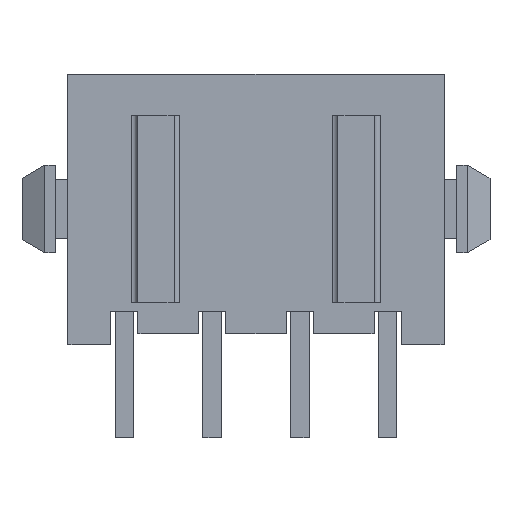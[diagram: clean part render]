
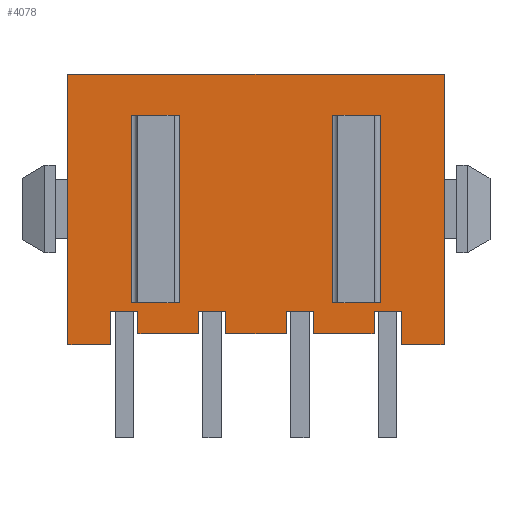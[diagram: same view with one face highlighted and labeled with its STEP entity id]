
A CAD part, front view. The second image highlights one B-rep face of the part: STEP entity #4078.
In plain terms, the highlighted planar face has unit normal (0, -1, 0).
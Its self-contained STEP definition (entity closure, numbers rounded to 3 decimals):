
#10=DIRECTION('',(0.,0.,-1.));
#11=VECTOR('',#10,9.24);
#12=CARTESIAN_POINT('',(-6.43,-3.43,0.));
#13=LINE('',#12,#11);
#841=DIRECTION('',(0.,0.,-1.));
#842=VECTOR('',#841,1.13);
#843=CARTESIAN_POINT('',(4.965,-3.43,-8.11));
#844=LINE('',#843,#842);
#925=DIRECTION('',(0.,0.,-1.));
#926=VECTOR('',#925,9.24);
#927=CARTESIAN_POINT('',(6.43,-3.43,0.));
#928=LINE('',#927,#926);
#965=DIRECTION('',(0.,0.,1.));
#966=VECTOR('',#965,1.13);
#967=CARTESIAN_POINT('',(-4.965,-3.43,-9.24));
#968=LINE('',#967,#966);
#981=DIRECTION('',(1.,0.,0.));
#982=VECTOR('',#981,0.93);
#983=CARTESIAN_POINT('',(-4.965,-3.43,-8.11));
#984=LINE('',#983,#982);
#985=DIRECTION('',(1.,0.,0.));
#986=VECTOR('',#985,12.86);
#987=CARTESIAN_POINT('',(-6.43,-3.43,0.));
#988=LINE('',#987,#986);
#989=DIRECTION('',(1.,0.,0.));
#990=VECTOR('',#989,0.93);
#991=CARTESIAN_POINT('',(4.035,-3.43,-8.11));
#992=LINE('',#991,#990);
#993=DIRECTION('',(0.,0.,-1.));
#994=VECTOR('',#993,0.76);
#995=CARTESIAN_POINT('',(4.035,-3.43,-8.11));
#996=LINE('',#995,#994);
#997=DIRECTION('',(1.,0.,0.));
#998=VECTOR('',#997,2.07);
#999=CARTESIAN_POINT('',(1.965,-3.43,-8.87));
#1000=LINE('',#999,#998);
#1001=DIRECTION('',(0.,0.,-1.));
#1002=VECTOR('',#1001,0.76);
#1003=CARTESIAN_POINT('',(1.965,-3.43,-8.11));
#1004=LINE('',#1003,#1002);
#1005=DIRECTION('',(1.,0.,0.));
#1006=VECTOR('',#1005,0.93);
#1007=CARTESIAN_POINT('',(1.035,-3.43,-8.11));
#1008=LINE('',#1007,#1006);
#1009=DIRECTION('',(0.,0.,-1.));
#1010=VECTOR('',#1009,0.76);
#1011=CARTESIAN_POINT('',(1.035,-3.43,-8.11));
#1012=LINE('',#1011,#1010);
#1013=DIRECTION('',(1.,0.,0.));
#1014=VECTOR('',#1013,2.07);
#1015=CARTESIAN_POINT('',(-1.035,-3.43,-8.87));
#1016=LINE('',#1015,#1014);
#1017=DIRECTION('',(0.,0.,-1.));
#1018=VECTOR('',#1017,0.76);
#1019=CARTESIAN_POINT('',(-1.035,-3.43,-8.11));
#1020=LINE('',#1019,#1018);
#1021=DIRECTION('',(1.,0.,0.));
#1022=VECTOR('',#1021,0.93);
#1023=CARTESIAN_POINT('',(-1.965,-3.43,-8.11));
#1024=LINE('',#1023,#1022);
#1025=DIRECTION('',(0.,0.,-1.));
#1026=VECTOR('',#1025,0.76);
#1027=CARTESIAN_POINT('',(-1.965,-3.43,-8.11));
#1028=LINE('',#1027,#1026);
#1029=DIRECTION('',(1.,0.,0.));
#1030=VECTOR('',#1029,2.07);
#1031=CARTESIAN_POINT('',(-4.035,-3.43,-8.87));
#1032=LINE('',#1031,#1030);
#1033=DIRECTION('',(0.,0.,-1.));
#1034=VECTOR('',#1033,0.76);
#1035=CARTESIAN_POINT('',(-4.035,-3.43,-8.11));
#1036=LINE('',#1035,#1034);
#1037=DIRECTION('',(0.,0.,-1.));
#1038=VECTOR('',#1037,6.4);
#1039=CARTESIAN_POINT('',(2.6,-3.43,-1.4));
#1040=LINE('',#1039,#1038);
#1041=DIRECTION('',(0.,0.,1.));
#1042=VECTOR('',#1041,6.4);
#1043=CARTESIAN_POINT('',(4.25,-3.43,-7.8));
#1044=LINE('',#1043,#1042);
#1045=DIRECTION('',(0.,0.,1.));
#1046=VECTOR('',#1045,6.4);
#1047=CARTESIAN_POINT('',(-2.6,-3.43,-7.8));
#1048=LINE('',#1047,#1046);
#1049=DIRECTION('',(0.,0.,-1.));
#1050=VECTOR('',#1049,6.4);
#1051=CARTESIAN_POINT('',(-4.25,-3.43,-1.4));
#1052=LINE('',#1051,#1050);
#1057=DIRECTION('',(1.,0.,0.));
#1058=VECTOR('',#1057,1.465);
#1059=CARTESIAN_POINT('',(-6.43,-3.43,-9.24));
#1060=LINE('',#1059,#1058);
#1065=DIRECTION('',(1.,0.,0.));
#1066=VECTOR('',#1065,1.465);
#1067=CARTESIAN_POINT('',(4.965,-3.43,-9.24));
#1068=LINE('',#1067,#1066);
#1127=DIRECTION('',(1.,0.,0.));
#1128=VECTOR('',#1127,1.65);
#1129=CARTESIAN_POINT('',(2.6,-3.43,-1.4));
#1130=LINE('',#1129,#1128);
#1143=DIRECTION('',(1.,0.,0.));
#1144=VECTOR('',#1143,1.65);
#1145=CARTESIAN_POINT('',(-4.25,-3.43,-1.4));
#1146=LINE('',#1145,#1144);
#1173=DIRECTION('',(-1.,0.,0.));
#1174=VECTOR('',#1173,1.65);
#1175=CARTESIAN_POINT('',(4.25,-3.43,-7.8));
#1176=LINE('',#1175,#1174);
#1189=DIRECTION('',(-1.,0.,0.));
#1190=VECTOR('',#1189,1.65);
#1191=CARTESIAN_POINT('',(-2.6,-3.43,-7.8));
#1192=LINE('',#1191,#1190);
#2254=CARTESIAN_POINT('',(-6.43,-3.43,0.));
#2255=VERTEX_POINT('',#2254);
#2256=CARTESIAN_POINT('',(-6.43,-3.43,-9.24));
#2257=VERTEX_POINT('',#2256);
#2270=CARTESIAN_POINT('',(6.43,-3.43,0.));
#2271=VERTEX_POINT('',#2270);
#2272=CARTESIAN_POINT('',(6.43,-3.43,-9.24));
#2273=VERTEX_POINT('',#2272);
#2282=CARTESIAN_POINT('',(-4.965,-3.43,-9.24));
#2284=VERTEX_POINT('',#2282);
#2286=CARTESIAN_POINT('',(4.965,-3.43,-9.24));
#2288=VERTEX_POINT('',#2286);
#2545=CARTESIAN_POINT('',(2.6,-3.43,-1.4));
#2546=CARTESIAN_POINT('',(2.6,-3.43,-7.8));
#2547=VERTEX_POINT('',#2545);
#2548=VERTEX_POINT('',#2546);
#2553=CARTESIAN_POINT('',(-2.6,-3.43,-7.8));
#2554=CARTESIAN_POINT('',(-2.6,-3.43,-1.4));
#2555=VERTEX_POINT('',#2553);
#2556=VERTEX_POINT('',#2554);
#2561=CARTESIAN_POINT('',(-4.25,-3.43,-1.4));
#2562=CARTESIAN_POINT('',(-4.25,-3.43,-7.8));
#2563=VERTEX_POINT('',#2561);
#2564=VERTEX_POINT('',#2562);
#2569=CARTESIAN_POINT('',(4.25,-3.43,-7.8));
#2570=CARTESIAN_POINT('',(4.25,-3.43,-1.4));
#2571=VERTEX_POINT('',#2569);
#2572=VERTEX_POINT('',#2570);
#2591=CARTESIAN_POINT('',(4.035,-3.43,-8.11));
#2592=CARTESIAN_POINT('',(4.965,-3.43,-8.11));
#2593=VERTEX_POINT('',#2591);
#2594=VERTEX_POINT('',#2592);
#2595=CARTESIAN_POINT('',(4.035,-3.43,-8.87));
#2596=VERTEX_POINT('',#2595);
#2617=CARTESIAN_POINT('',(1.035,-3.43,-8.11));
#2618=CARTESIAN_POINT('',(1.965,-3.43,-8.11));
#2619=VERTEX_POINT('',#2617);
#2620=VERTEX_POINT('',#2618);
#2621=CARTESIAN_POINT('',(1.035,-3.43,-8.87));
#2622=VERTEX_POINT('',#2621);
#2623=CARTESIAN_POINT('',(1.965,-3.43,-8.87));
#2624=VERTEX_POINT('',#2623);
#2689=CARTESIAN_POINT('',(-1.965,-3.43,-8.11));
#2690=CARTESIAN_POINT('',(-1.035,-3.43,-8.11));
#2691=VERTEX_POINT('',#2689);
#2692=VERTEX_POINT('',#2690);
#2693=CARTESIAN_POINT('',(-1.965,-3.43,-8.87));
#2694=VERTEX_POINT('',#2693);
#2695=CARTESIAN_POINT('',(-1.035,-3.43,-8.87));
#2696=VERTEX_POINT('',#2695);
#2747=CARTESIAN_POINT('',(-4.965,-3.43,-8.11));
#2748=CARTESIAN_POINT('',(-4.035,-3.43,-8.11));
#2749=VERTEX_POINT('',#2747);
#2750=VERTEX_POINT('',#2748);
#2751=CARTESIAN_POINT('',(-4.035,-3.43,-8.87));
#2752=VERTEX_POINT('',#2751);
#4020=CARTESIAN_POINT('',(-6.43,-3.43,0.));
#4021=DIRECTION('',(0.,-1.,0.));
#4022=DIRECTION('',(0.,0.,-1.));
#4023=AXIS2_PLACEMENT_3D('',#4020,#4021,#4022);
#4024=PLANE('',#4023);
#4025=ORIENTED_EDGE('',*,*,#3625,.F.);
#4026=ORIENTED_EDGE('',*,*,#3999,.F.);
#4028=ORIENTED_EDGE('',*,*,#4027,.F.);
#4029=ORIENTED_EDGE('',*,*,#2986,.F.);
#4030=ORIENTED_EDGE('',*,*,#3169,.T.);
#4031=ORIENTED_EDGE('',*,*,#3953,.T.);
#4033=ORIENTED_EDGE('',*,*,#4032,.F.);
#4034=ORIENTED_EDGE('',*,*,#3860,.F.);
#4035=ORIENTED_EDGE('',*,*,#3649,.F.);
#4037=ORIENTED_EDGE('',*,*,#4036,.T.);
#4039=ORIENTED_EDGE('',*,*,#4038,.F.);
#4041=ORIENTED_EDGE('',*,*,#4040,.F.);
#4042=ORIENTED_EDGE('',*,*,#3641,.F.);
#4044=ORIENTED_EDGE('',*,*,#4043,.T.);
#4046=ORIENTED_EDGE('',*,*,#4045,.F.);
#4048=ORIENTED_EDGE('',*,*,#4047,.F.);
#4049=ORIENTED_EDGE('',*,*,#3633,.F.);
#4051=ORIENTED_EDGE('',*,*,#4050,.T.);
#4053=ORIENTED_EDGE('',*,*,#4052,.F.);
#4055=ORIENTED_EDGE('',*,*,#4054,.F.);
#4056=EDGE_LOOP('',(#4025,#4026,#4028,#4029,#4030,#4031,#4033,#4034,#4035,#4037,
#4039,#4041,#4042,#4044,#4046,#4048,#4049,#4051,#4053,#4055));
#4057=FACE_OUTER_BOUND('',#4056,.F.);
#4059=ORIENTED_EDGE('',*,*,#4058,.T.);
#4061=ORIENTED_EDGE('',*,*,#4060,.F.);
#4063=ORIENTED_EDGE('',*,*,#4062,.T.);
#4065=ORIENTED_EDGE('',*,*,#4064,.F.);
#4066=EDGE_LOOP('',(#4059,#4061,#4063,#4065));
#4067=FACE_BOUND('',#4066,.F.);
#4069=ORIENTED_EDGE('',*,*,#4068,.T.);
#4071=ORIENTED_EDGE('',*,*,#4070,.F.);
#4073=ORIENTED_EDGE('',*,*,#4072,.T.);
#4075=ORIENTED_EDGE('',*,*,#4074,.F.);
#4076=EDGE_LOOP('',(#4069,#4071,#4073,#4075));
#4077=FACE_BOUND('',#4076,.F.);
#2986=EDGE_CURVE('',#2255,#2257,#13,.T.);
#3169=EDGE_CURVE('',#2255,#2271,#988,.T.);
#3625=EDGE_CURVE('',#2749,#2750,#984,.T.);
#3633=EDGE_CURVE('',#2691,#2692,#1024,.T.);
#3641=EDGE_CURVE('',#2619,#2620,#1008,.T.);
#3649=EDGE_CURVE('',#2593,#2594,#992,.T.);
#3860=EDGE_CURVE('',#2594,#2288,#844,.T.);
#3953=EDGE_CURVE('',#2271,#2273,#928,.T.);
#3999=EDGE_CURVE('',#2284,#2749,#968,.T.);
#4027=EDGE_CURVE('',#2257,#2284,#1060,.T.);
#4032=EDGE_CURVE('',#2288,#2273,#1068,.T.);
#4036=EDGE_CURVE('',#2593,#2596,#996,.T.);
#4038=EDGE_CURVE('',#2624,#2596,#1000,.T.);
#4040=EDGE_CURVE('',#2620,#2624,#1004,.T.);
#4043=EDGE_CURVE('',#2619,#2622,#1012,.T.);
#4045=EDGE_CURVE('',#2696,#2622,#1016,.T.);
#4047=EDGE_CURVE('',#2692,#2696,#1020,.T.);
#4050=EDGE_CURVE('',#2691,#2694,#1028,.T.);
#4052=EDGE_CURVE('',#2752,#2694,#1032,.T.);
#4054=EDGE_CURVE('',#2750,#2752,#1036,.T.);
#4058=EDGE_CURVE('',#2547,#2548,#1040,.T.);
#4060=EDGE_CURVE('',#2571,#2548,#1176,.T.);
#4062=EDGE_CURVE('',#2571,#2572,#1044,.T.);
#4064=EDGE_CURVE('',#2547,#2572,#1130,.T.);
#4068=EDGE_CURVE('',#2555,#2556,#1048,.T.);
#4070=EDGE_CURVE('',#2563,#2556,#1146,.T.);
#4072=EDGE_CURVE('',#2563,#2564,#1052,.T.);
#4074=EDGE_CURVE('',#2555,#2564,#1192,.T.);
#4078=ADVANCED_FACE('',(#4057,#4067,#4077),#4024,.T.);
